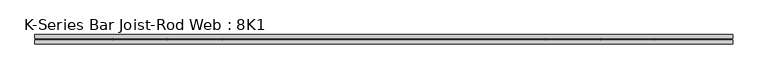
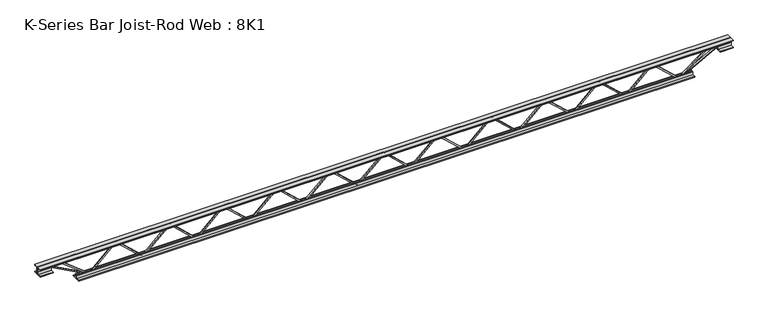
"""IFC4 building model written with IfcOpenShell, lengths in millimetres: beam geometry, K-Series Bar Joist-Rod Web : 8K1."""

from ifc_helpers import new_model, si_unit, frame, origin, place, context, project, spatial, polyline, outline, extrude, source, transform, mapped, element, save


def k_series_bar_joist_rod_web_8k1_7da3c62f(model_context):
    return source(origin(), model_context, "Body", "SweptSolid", [
        extrude(outline(polyline([(-90.4875, 1487.0545455), (-100.0125, 1487.0545455), (-100.0125, 1492.0935213), (90.4875, 1698.1798849), (90.4875, 1700.8019332), (-100.0125, 1906.8882969), (-100.0125, 1911.9272727), (-90.4875, 1911.9272727), (-90.4875, 1910.6162486), (100.0125, 1704.5298849), (100.0125, 1694.4519332), (-90.4875, 1488.3655696), (-90.4875, 1487.0545455)])), frame((0.0, -4.7625, 0.0), z_axis=(0.0, 1.0, 0.0), x_axis=(0.0, 0.0, 1.0)), (0.0, 0.0, 1.0), 9.525),
        extrude(outline(polyline([(-90.4875, 1062.1818182), (-100.0125, 1062.1818182), (-100.0125, 1067.220794), (90.4875, 1273.3071577), (90.4875, 1275.929206), (-100.0125, 1482.0155696), (-100.0125, 1487.0545455), (-90.4875, 1487.0545455), (-90.4875, 1485.7435213), (100.0125, 1279.6571577), (100.0125, 1269.579206), (-90.4875, 1063.4928423), (-90.4875, 1062.1818182)])), frame((0.0, -4.7625, 0.0), z_axis=(0.0, 1.0, 0.0), x_axis=(0.0, 0.0, 1.0)), (0.0, 0.0, 1.0), 9.525),
        extrude(outline(polyline([(-90.4875, 637.3090909), (-100.0125, 637.3090909), (-100.0125, 642.3480668), (90.4875, 848.4344304), (90.4875, 851.0564787), (-100.0125, 1057.1428423), (-100.0125, 1062.1818182), (-90.4875, 1062.1818182), (-90.4875, 1060.870794), (100.0125, 854.7844304), (100.0125, 844.7064787), (-90.4875, 638.6201151), (-90.4875, 637.3090909)])), frame((0.0, -4.7625, 0.0), z_axis=(0.0, 1.0, 0.0), x_axis=(0.0, 0.0, 1.0)), (0.0, 0.0, 1.0), 9.525),
        extrude(outline(polyline([(-90.4875, 212.4363636), (-100.0125, 212.4363636), (-100.0125, 217.4753395), (90.4875, 423.5617031), (90.4875, 426.1837514), (-100.0125, 632.2701151), (-100.0125, 637.3090909), (-90.4875, 637.3090909), (-90.4875, 635.9980668), (100.0125, 429.9117031), (100.0125, 419.8337514), (-90.4875, 213.7473878), (-90.4875, 212.4363636)])), frame((0.0, -4.7625, 0.0), z_axis=(0.0, 1.0, 0.0), x_axis=(0.0, 0.0, 1.0)), (0.0, 0.0, 1.0), 9.525),
        extrude(outline(polyline([(-90.4875, -212.4363636), (-100.0125, -212.4363636), (-100.0125, -207.3973878), (90.4875, -1.3110241), (90.4875, 1.3110241), (-100.0125, 207.3973878), (-100.0125, 212.4363636), (-90.4875, 212.4363636), (-90.4875, 211.1253395), (100.0125, 5.0389759), (100.0125, -5.0389759), (-90.4875, -211.1253395), (-90.4875, -212.4363636)])), frame((0.0, -4.7625, 0.0), z_axis=(0.0, 1.0, 0.0), x_axis=(0.0, 0.0, 1.0)), (0.0, 0.0, 1.0), 9.525),
        extrude(outline(polyline([(-90.4875, -637.3090909), (-100.0125, -637.3090909), (-100.0125, -632.2701151), (90.4875, -426.1837514), (90.4875, -423.5617031), (-100.0125, -217.4753395), (-100.0125, -212.4363636), (-90.4875, -212.4363636), (-90.4875, -213.7473878), (100.0125, -419.8337514), (100.0125, -429.9117031), (-90.4875, -635.9980668), (-90.4875, -637.3090909)])), frame((0.0, -4.7625, 0.0), z_axis=(0.0, 1.0, 0.0), x_axis=(0.0, 0.0, 1.0)), (0.0, 0.0, 1.0), 9.525),
        extrude(outline(polyline([(-90.4875, -1062.1818182), (-100.0125, -1062.1818182), (-100.0125, -1057.1428423), (90.4875, -851.0564787), (90.4875, -848.4344304), (-100.0125, -642.3480668), (-100.0125, -637.3090909), (-90.4875, -637.3090909), (-90.4875, -638.6201151), (100.0125, -844.7064787), (100.0125, -854.7844304), (-90.4875, -1060.870794), (-90.4875, -1062.1818182)])), frame((0.0, -4.7625, 0.0), z_axis=(0.0, 1.0, 0.0), x_axis=(0.0, 0.0, 1.0)), (0.0, 0.0, 1.0), 9.525),
        extrude(outline(polyline([(-90.4875, -1487.0545455), (-100.0125, -1487.0545455), (-100.0125, -1482.0155696), (90.4875, -1275.929206), (90.4875, -1273.3071577), (-100.0125, -1067.220794), (-100.0125, -1062.1818182), (-90.4875, -1062.1818182), (-90.4875, -1063.4928423), (100.0125, -1269.579206), (100.0125, -1279.6571577), (-90.4875, -1485.7435213), (-90.4875, -1487.0545455)])), frame((0.0, -4.7625, 0.0), z_axis=(0.0, 1.0, 0.0), x_axis=(0.0, 0.0, 1.0)), (0.0, 0.0, 1.0), 9.525),
        extrude(outline(polyline([(-90.4875, -1911.9272727), (-100.0125, -1911.9272727), (-100.0125, -1906.8882969), (90.4875, -1700.8019332), (90.4875, -1698.1798849), (-100.0125, -1492.0935213), (-100.0125, -1487.0545455), (-90.4875, -1487.0545455), (-90.4875, -1488.3655696), (100.0125, -1694.4519332), (100.0125, -1704.5298849), (-90.4875, -1910.6162486), (-90.4875, -1911.9272727)])), frame((0.0, -4.7625, 0.0), z_axis=(0.0, 1.0, 0.0), x_axis=(0.0, 0.0, 1.0)), (0.0, 0.0, 1.0), 9.525),
        extrude(outline(polyline([(-90.4875, 1911.9272727), (-100.0125, 1911.9272727), (-100.0125, 1916.9662486), (90.4875, 2123.0526122), (90.4875, 2125.6746605), (-100.0125, 2331.7610241), (-100.0125, 2336.8), (-90.4875, 2336.8), (-90.4875, 2335.4889759), (100.0125, 2129.4026122), (100.0125, 2119.3246605), (-90.4875, 1913.2382969), (-90.4875, 1911.9272727)])), frame((0.0, -4.7625, 0.0), z_axis=(0.0, 1.0, 0.0), x_axis=(0.0, 0.0, 1.0)), (0.0, 0.0, 1.0), 9.525),
        extrude(outline(polyline([(-90.4875, -2336.8), (-100.0125, -2336.8), (-100.0125, -2331.7610241), (90.4875, -2125.6746605), (90.4875, -2123.0526122), (-100.0125, -1916.9662486), (-100.0125, -1911.9272727), (-90.4875, -1911.9272727), (-90.4875, -1913.2382969), (100.0125, -2119.3246605), (100.0125, -2129.4026122), (-90.4875, -2335.4889759), (-90.4875, -2336.8)])), frame((0.0, -4.7625, 0.0), z_axis=(0.0, 1.0, 0.0), x_axis=(0.0, 0.0, 1.0)), (0.0, 0.0, 1.0), 9.525),
        extrude(outline(polyline([(4.7625, 101.6), (36.5125, 101.6), (36.5125, 95.25), (11.1125, 95.25), (11.1125, 69.85), (4.7625, 69.85), (4.7625, 101.6)])), frame((-2743.2, 0.0, 0.0), z_axis=(1.0, 0.0, 0.0), x_axis=(0.0, 1.0, 0.0)), (0.0, 0.0, 1.0), 5486.4),
        extrude(outline(polyline([(-4.7625, 101.6), (-4.7625, 69.85), (-11.1125, 69.85), (-11.1125, 95.25), (-36.5125, 95.25), (-36.5125, 101.6), (-4.7625, 101.6)])), frame((-2743.2, 0.0, 0.0), z_axis=(1.0, 0.0, 0.0), x_axis=(0.0, 1.0, 0.0)), (0.0, 0.0, 1.0), 5486.4),
        extrude(outline(polyline([(-4.7625, 38.1), (-36.5125, 38.1), (-36.5125, 44.45), (-11.1125, 44.45), (-11.1125, 69.85), (-4.7625, 69.85), (-4.7625, 38.1)])), frame((-2743.2, 0.0, 0.0), z_axis=(1.0, 0.0, 0.0), x_axis=(0.0, 1.0, 0.0)), (0.0, 0.0, 1.0), 101.6),
        extrude(outline(polyline([(36.5125, 38.1), (4.7625, 38.1), (4.7625, 69.85), (11.1125, 69.85), (11.1125, 44.45), (36.5125, 44.45), (36.5125, 38.1)])), frame((-2743.2, 0.0, 0.0), z_axis=(1.0, 0.0, 0.0), x_axis=(0.0, 1.0, 0.0)), (0.0, 0.0, 1.0), 101.6),
        extrude(outline(polyline([(4.7625, 38.1), (4.7625, 69.85), (11.1125, 69.85), (11.1125, 44.45), (36.5125, 44.45), (36.5125, 38.1), (4.7625, 38.1)])), frame((2641.6, 0.0, 0.0), z_axis=(1.0, 0.0, 0.0), x_axis=(0.0, 1.0, 0.0)), (0.0, 0.0, 1.0), 101.6),
        extrude(outline(polyline([(-4.7625, 38.1), (-36.5125, 38.1), (-36.5125, 44.45), (-11.1125, 44.45), (-11.1125, 69.85), (-4.7625, 69.85), (-4.7625, 38.1)])), frame((2641.6, 0.0, 0.0), z_axis=(1.0, 0.0, 0.0), x_axis=(0.0, 1.0, 0.0)), (0.0, 0.0, 1.0), 101.6),
        extrude(outline(polyline([(4.7625, -101.6), (4.7625, -69.85), (11.1125, -69.85), (11.1125, -95.25), (36.5125, -95.25), (36.5125, -101.6), (4.7625, -101.6)])), frame((-2438.4, 0.0, 0.0), z_axis=(1.0, 0.0, 0.0), x_axis=(0.0, 1.0, 0.0)), (0.0, 0.0, 1.0), 4876.8),
        extrude(outline(polyline([(-4.7625, -101.6), (-36.5125, -101.6), (-36.5125, -95.25), (-11.1125, -95.25), (-11.1125, -69.85), (-4.7625, -69.85), (-4.7625, -101.6)])), frame((-2438.4, 0.0, 0.0), z_axis=(1.0, 0.0, 0.0), x_axis=(0.0, 1.0, 0.0)), (0.0, 0.0, 1.0), 4876.8),
        extrude(outline(polyline([(0.0, -9.525), (0.0, 0.0), (346.6425392, 0.0), (346.6425392, -9.525), (0.0, -9.525)])), frame((-2643.8682985, 4.7625, 65.662372), z_axis=(0.4762831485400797, 0.0, 0.8792919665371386), x_axis=(0.8792919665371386, 0.0, -0.4762831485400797)), (0.0, 0.0, 1.0), 9.525),
        extrude(outline(polyline([(0.0, -9.525), (0.0, 0.0), (269.048729, 0.0), (269.048729, -9.525), (0.0, -9.525)])), frame((-2552.1588407, 4.7625, 66.0896099), z_axis=(0.6136434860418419, 0.0, 0.7895832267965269), x_axis=(0.7895832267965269, 0.0, -0.6136434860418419)), (0.0, 0.0, 1.0), 9.525),
        extrude(outline(polyline([(0.0, -9.525), (0.0, 0.0), (346.6425392, 0.0), (346.6425392, -9.525), (0.0, -9.525)])), frame((2643.8682985, -4.7625, 65.662372), z_axis=(-0.4762831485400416, 0.0, 0.8792919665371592), x_axis=(-0.8792919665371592, 0.0, -0.4762831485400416)), (0.0, 0.0, 1.0), 9.525),
        extrude(outline(polyline([(0.0, -9.525), (0.0, 0.0), (269.048729, 0.0), (269.048729, -9.525), (0.0, -9.525)])), frame((2552.1588407, -4.7625, 66.0896099), z_axis=(-0.6136434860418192, 0.0, 0.7895832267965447), x_axis=(-0.7895832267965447, 0.0, -0.6136434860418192)), (0.0, 0.0, 1.0), 9.525),
    ])


if __name__ == "__main__":
    model = new_model("IFC4")
    model_context = context("Model", 3, world=origin())
    ifc_project = project(units=[si_unit("LENGTHUNIT", "METRE", prefix="MILLI")], contexts=[model_context])
    site = spatial("IfcSite", under=ifc_project)
    building = spatial("IfcBuilding", under=site)
    placement = place(None, origin())
    k_series_bar_joist_rod_web_8k1_shape = k_series_bar_joist_rod_web_8k1_7da3c62f(model_context)
    element("IfcBeam", 1, ObjectType="K-Series Bar Joist-Rod Web : 8K1", at=placement, inside=building, context=model_context, shape_type="MappedRepresentation", body=[
        mapped(k_series_bar_joist_rod_web_8k1_shape, transform((0.0, 0.0, 0.0), x_axis=(1.0, 0.0, 0.0), y_axis=(0.0, 1.0, 0.0), z_axis=(0.0, 0.0, 1.0))),
    ])
    save(model, "model.ifc")
